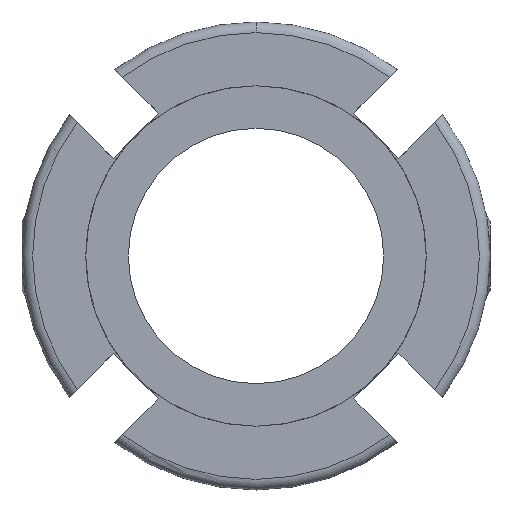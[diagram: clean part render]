
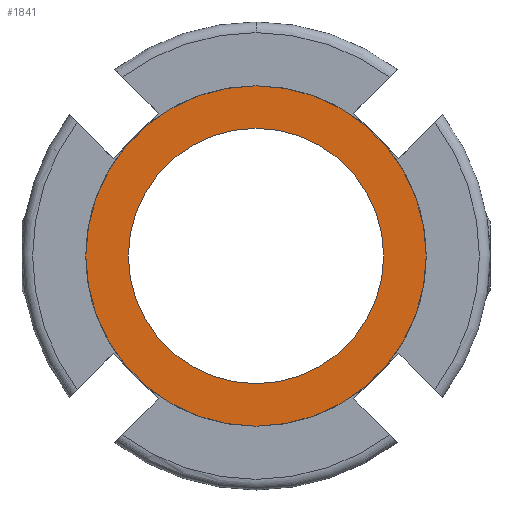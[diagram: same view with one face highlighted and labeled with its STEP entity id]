
A CAD part, left-side view. The second image highlights one B-rep face of the part: STEP entity #1841.
In plain terms, the highlighted planar face has unit normal (-1, 0, 0).
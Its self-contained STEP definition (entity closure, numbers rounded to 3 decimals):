
#19 = DIRECTION ( 'NONE',  ( 0., 0., 1. ) ) ;
#186 = CIRCLE ( 'NONE', #1388, 8. ) ;
#201 = DIRECTION ( 'NONE',  ( -1., 0., 0. ) ) ;
#241 = ORIENTED_EDGE ( 'NONE', *, *, #2223, .T. ) ;
#269 = FACE_BOUND ( 'NONE', #680, .T. ) ;
#386 = CARTESIAN_POINT ( 'NONE',  ( -8., 0., -8. ) ) ;
#432 = CARTESIAN_POINT ( 'NONE',  ( -8., 0., 0. ) ) ;
#477 = CARTESIAN_POINT ( 'NONE',  ( -8., 0., 6. ) ) ;
#651 = DIRECTION ( 'NONE',  ( 1., 0., 0. ) ) ;
#680 = EDGE_LOOP ( 'NONE', ( #2279, #2081 ) ) ;
#838 = DIRECTION ( 'NONE',  ( -1., 0., 0. ) ) ;
#861 = DIRECTION ( 'NONE',  ( 0., 0., 1. ) ) ;
#1119 = EDGE_CURVE ( 'NONE', #1618, #1157, #2123, .T. ) ;
#1157 = VERTEX_POINT ( 'NONE', #477 ) ;
#1216 = EDGE_CURVE ( 'NONE', #2911, #1238, #1637, .T. ) ;
#1238 = VERTEX_POINT ( 'NONE', #386 ) ;
#1388 = AXIS2_PLACEMENT_3D ( 'NONE', #2273, #2731, #19 ) ;
#1433 = AXIS2_PLACEMENT_3D ( 'NONE', #432, #838, #1539 ) ;
#1539 = DIRECTION ( 'NONE',  ( 0., 0., 1. ) ) ;
#1598 = EDGE_LOOP ( 'NONE', ( #1740, #241 ) ) ;
#1602 = CARTESIAN_POINT ( 'NONE',  ( -8., 0., 0. ) ) ;
#1618 = VERTEX_POINT ( 'NONE', #2125 ) ;
#1637 = CIRCLE ( 'NONE', #1433, 8. ) ;
#1740 = ORIENTED_EDGE ( 'NONE', *, *, #1216, .T. ) ;
#1841 = ADVANCED_FACE ( 'NONE', ( #269, #1891 ), #1988, .F. ) ;
#1891 = FACE_OUTER_BOUND ( 'NONE', #1598, .T. ) ;
#1988 = PLANE ( 'NONE',  #2818 ) ;
#1997 = EDGE_CURVE ( 'NONE', #1157, #1618, #2597, .T. ) ;
#2022 = CARTESIAN_POINT ( 'NONE',  ( -8., 8., 0. ) ) ;
#2043 = DIRECTION ( 'NONE',  ( -1., 0., 0. ) ) ;
#2081 = ORIENTED_EDGE ( 'NONE', *, *, #1119, .F. ) ;
#2123 = CIRCLE ( 'NONE', #2948, 6. ) ;
#2125 = CARTESIAN_POINT ( 'NONE',  ( -8., 0., -6. ) ) ;
#2222 = CARTESIAN_POINT ( 'NONE',  ( -8., 0., 0. ) ) ;
#2223 = EDGE_CURVE ( 'NONE', #1238, #2911, #186, .T. ) ;
#2262 = DIRECTION ( 'NONE',  ( 0., 0., 1. ) ) ;
#2273 = CARTESIAN_POINT ( 'NONE',  ( -8., 0., 0. ) ) ;
#2279 = ORIENTED_EDGE ( 'NONE', *, *, #1997, .F. ) ;
#2537 = CARTESIAN_POINT ( 'NONE',  ( -8., 0., 8. ) ) ;
#2590 = AXIS2_PLACEMENT_3D ( 'NONE', #1602, #2043, #2262 ) ;
#2597 = CIRCLE ( 'NONE', #2590, 6. ) ;
#2663 = DIRECTION ( 'NONE',  ( 0., 0., -1. ) ) ;
#2731 = DIRECTION ( 'NONE',  ( -1., 0., 0. ) ) ;
#2818 = AXIS2_PLACEMENT_3D ( 'NONE', #2022, #651, #2663 ) ;
#2911 = VERTEX_POINT ( 'NONE', #2537 ) ;
#2948 = AXIS2_PLACEMENT_3D ( 'NONE', #2222, #201, #861 ) ;
